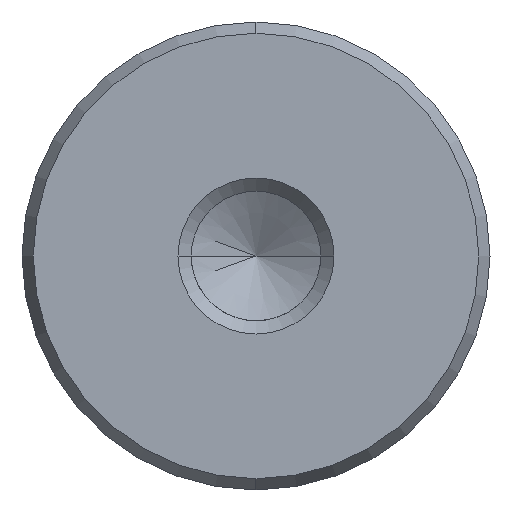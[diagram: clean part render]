
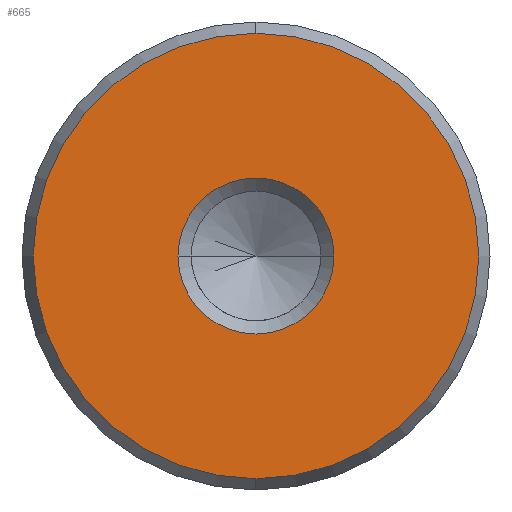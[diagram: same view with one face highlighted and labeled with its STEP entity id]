
A CAD part, left-side view. The second image highlights one B-rep face of the part: STEP entity #665.
In plain terms, the highlighted planar face has unit normal (-1, 0, 0).
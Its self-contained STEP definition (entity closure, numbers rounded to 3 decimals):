
#579=CARTESIAN_POINT('Vertex',(0.,0.,-11.423)) ;
#582=CARTESIAN_POINT('Axis2P3D Location',(0.,0.,0.)) ;
#586=CARTESIAN_POINT('Vertex',(0.,11.423,0.)) ;
#589=CARTESIAN_POINT('Axis2P3D Location',(0.,0.,0.)) ;
#593=CARTESIAN_POINT('Vertex',(0.,0.,11.423)) ;
#615=CARTESIAN_POINT('Axis2P3D Location',(0.,0.,0.)) ;
#619=CARTESIAN_POINT('Vertex',(0.,-11.423,0.)) ;
#622=CARTESIAN_POINT('Axis2P3D Location',(0.,0.,0.)) ;
#636=CARTESIAN_POINT('Axis2P3D Location',(0.,0.,0.)) ;
#647=CARTESIAN_POINT('Axis2P3D Location',(0.,0.,0.)) ;
#651=CARTESIAN_POINT('Vertex',(0.,4.,0.)) ;
#653=CARTESIAN_POINT('Vertex',(0.,-4.,0.)) ;
#656=CARTESIAN_POINT('Axis2P3D Location',(0.,0.,0.)) ;
#583=DIRECTION('Axis2P3D Direction',(1.,0.,-0.)) ;
#590=DIRECTION('Axis2P3D Direction',(1.,0.,-0.)) ;
#616=DIRECTION('Axis2P3D Direction',(1.,0.,-0.)) ;
#623=DIRECTION('Axis2P3D Direction',(1.,0.,-0.)) ;
#637=DIRECTION('Axis2P3D Direction',(1.,0.,-0.)) ;
#638=DIRECTION('Axis2P3D XDirection',(-0.,0.,-1.)) ;
#648=DIRECTION('Axis2P3D Direction',(1.,0.,-0.)) ;
#657=DIRECTION('Axis2P3D Direction',(1.,0.,-0.)) ;
#584=AXIS2_PLACEMENT_3D('Circle Axis2P3D',#582,#583,$) ;
#591=AXIS2_PLACEMENT_3D('Circle Axis2P3D',#589,#590,$) ;
#617=AXIS2_PLACEMENT_3D('Circle Axis2P3D',#615,#616,$) ;
#624=AXIS2_PLACEMENT_3D('Circle Axis2P3D',#622,#623,$) ;
#639=AXIS2_PLACEMENT_3D('Plane Axis2P3D',#636,#637,#638) ;
#649=AXIS2_PLACEMENT_3D('Circle Axis2P3D',#647,#648,$) ;
#658=AXIS2_PLACEMENT_3D('Circle Axis2P3D',#656,#657,$) ;
#642=ORIENTED_EDGE('',*,*,#588,.F.) ;
#643=ORIENTED_EDGE('',*,*,#626,.F.) ;
#644=ORIENTED_EDGE('',*,*,#621,.F.) ;
#645=ORIENTED_EDGE('',*,*,#595,.F.) ;
#662=ORIENTED_EDGE('',*,*,#655,.T.) ;
#663=ORIENTED_EDGE('',*,*,#660,.T.) ;
#664=FACE_BOUND('',#661,.T.) ;
#665=ADVANCED_FACE('720-24x140',(#646,#664),#640,.F.) ;
#585=CIRCLE('generated circle',#584,11.423) ;
#592=CIRCLE('generated circle',#591,11.423) ;
#618=CIRCLE('generated circle',#617,11.423) ;
#625=CIRCLE('generated circle',#624,11.423) ;
#650=CIRCLE('generated circle',#649,4.) ;
#659=CIRCLE('generated circle',#658,4.) ;
#588=EDGE_CURVE('',#580,#587,#585,.T.) ;
#595=EDGE_CURVE('',#587,#594,#592,.T.) ;
#621=EDGE_CURVE('',#594,#620,#618,.T.) ;
#626=EDGE_CURVE('',#620,#580,#625,.T.) ;
#655=EDGE_CURVE('',#652,#654,#650,.T.) ;
#660=EDGE_CURVE('',#654,#652,#659,.T.) ;
#641=EDGE_LOOP('',(#642,#643,#644,#645)) ;
#661=EDGE_LOOP('',(#662,#663)) ;
#646=FACE_OUTER_BOUND('',#641,.T.) ;
#640=PLANE('Plane',#639) ;
#580=VERTEX_POINT('',#579) ;
#587=VERTEX_POINT('',#586) ;
#594=VERTEX_POINT('',#593) ;
#620=VERTEX_POINT('',#619) ;
#652=VERTEX_POINT('',#651) ;
#654=VERTEX_POINT('',#653) ;
